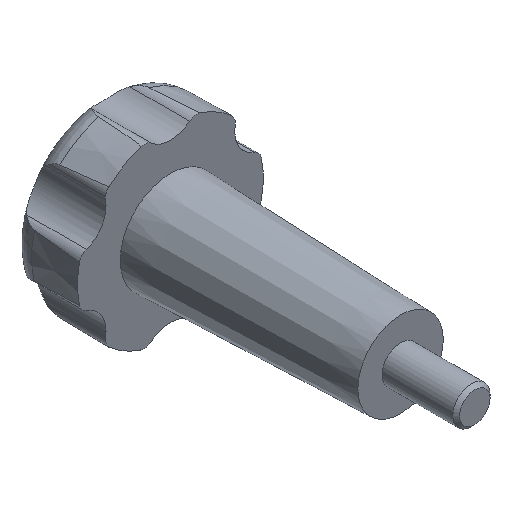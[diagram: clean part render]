
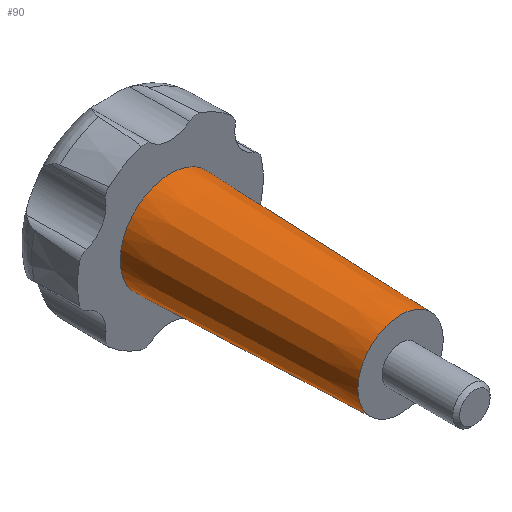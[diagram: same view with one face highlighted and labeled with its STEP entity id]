
A CAD part, isometric view. The second image highlights one B-rep face of the part: STEP entity #90.
In plain terms, the highlighted conical face has half-angle 1.848 degrees and reference radius 13.5 mm.
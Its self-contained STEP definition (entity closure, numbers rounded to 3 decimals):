
#90 = ADVANCED_FACE( '', ( #147, #148 ), #149, .T. );
#147 = FACE_BOUND( '', #257, .T. );
#148 = FACE_OUTER_BOUND( '', #258, .T. );
#149 = CONICAL_SURFACE( '', #259, 13.5, 0.032 );
#257 = EDGE_LOOP( '', ( #424 ) );
#258 = EDGE_LOOP( '', ( #425 ) );
#259 = AXIS2_PLACEMENT_3D( '', #426, #427, #428 );
#424 = ORIENTED_EDGE( '', *, *, #621, .F. );
#425 = ORIENTED_EDGE( '', *, *, #570, .T. );
#426 = CARTESIAN_POINT( '', ( 0., 62., 0. ) );
#427 = DIRECTION( '', ( 0., 1., 0. ) );
#428 = DIRECTION( '', ( 0., 0., 1. ) );
#570 = EDGE_CURVE( '', #665, #665, #666, .T. );
#621 = EDGE_CURVE( '', #756, #756, #757, .T. );
#665 = VERTEX_POINT( '', #913 );
#666 = CIRCLE( '', #914, 13.5 );
#756 = VERTEX_POINT( '', #1361 );
#757 = CIRCLE( '', #1362, 11.5 );
#913 = CARTESIAN_POINT( '', ( 0., 62., -13.5 ) );
#914 = AXIS2_PLACEMENT_3D( '', #1452, #1453, #1454 );
#1361 = CARTESIAN_POINT( '', ( 0., 0., -11.5 ) );
#1362 = AXIS2_PLACEMENT_3D( '', #1537, #1538, #1539 );
#1452 = CARTESIAN_POINT( '', ( 0., 62., 0. ) );
#1453 = DIRECTION( '', ( 0., -1., 0. ) );
#1454 = DIRECTION( '', ( 0., 0., -1. ) );
#1537 = CARTESIAN_POINT( '', ( 0., 0., 0. ) );
#1538 = DIRECTION( '', ( 0., -1., 0. ) );
#1539 = DIRECTION( '', ( 0., 0., -1. ) );
